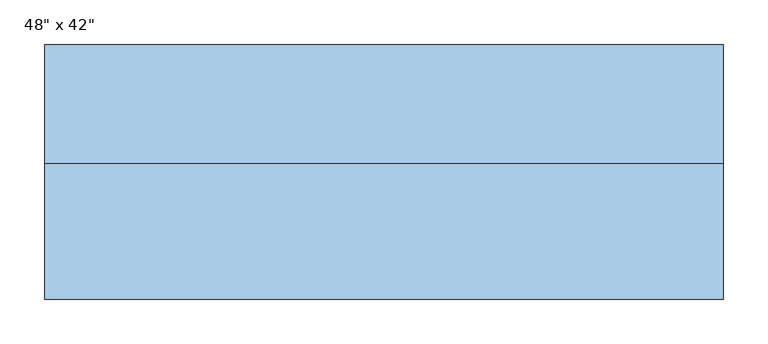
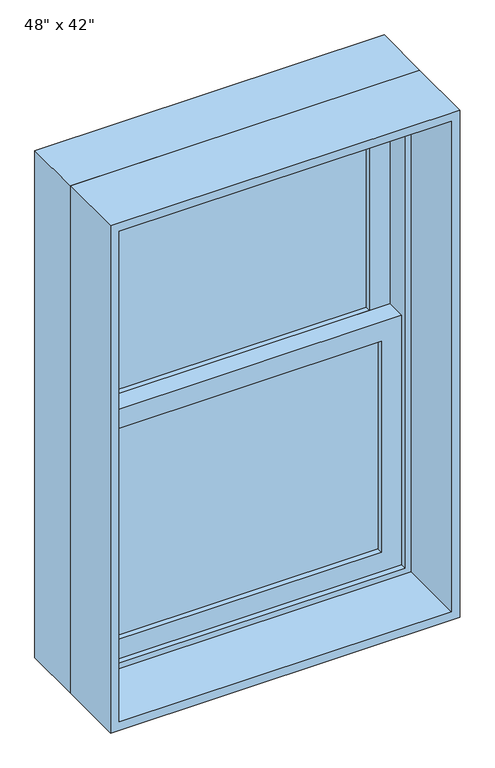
"""IFC4 building model written with IfcOpenShell, lengths in millimetres: window geometry."""

from ifc_helpers import new_model, si_unit, frame, origin, place, context, project, spatial, polyline, outline, extrude, source, transform, mapped, element, save


def window_8e1bc891(model_context):
    return source(origin(), model_context, "Body", "SweptSolid", [
        extrude(outline(polyline([(304.8, 63.5), (304.8, 57.15), (-304.8, 57.15), (-304.8, 63.5), (304.8, 63.5)])), frame((0.0, 0.0, 990.6), z_axis=(0.0, 0.0, 1.0), x_axis=(1.0, 0.0, 0.0)), (0.0, 0.0, 1.0), 485.775),
        extrude(outline(polyline([(-304.8, 50.8), (304.8, 50.8), (304.8, 44.45), (-304.8, 44.45), (-304.8, 50.8)])), frame((0.0, 0.0, 990.6), z_axis=(0.0, 0.0, 1.0), x_axis=(1.0, 0.0, 0.0)), (0.0, 0.0, 1.0), 485.775),
        extrude(outline(polyline([(304.8, 107.95), (304.8, 101.6), (-304.8, 101.6), (-304.8, 107.95), (304.8, 107.95)])), frame((0.0, 0.0, 1520.825), z_axis=(0.0, 0.0, 1.0), x_axis=(1.0, 0.0, 0.0)), (0.0, 0.0, 1.0), 485.775),
        extrude(outline(polyline([(-304.8, 95.25), (304.8, 95.25), (304.8, 88.9), (-304.8, 88.9), (-304.8, 95.25)])), frame((0.0, 0.0, 1520.825), z_axis=(0.0, 0.0, 1.0), x_axis=(1.0, 0.0, 0.0)), (0.0, 0.0, 1.0), 485.775),
        extrude(outline(polyline([(1520.825, -349.25), (946.15, -349.25), (946.15, 349.25), (1520.825, 349.25), (1520.825, -349.25)]), holes=[polyline([(1476.375, 304.8), (990.6, 304.8), (990.6, -304.8), (1476.375, -304.8), (1476.375, 304.8)])]), frame((0.0, 31.75, 0.0), z_axis=(0.0, 1.0, 0.0), x_axis=(0.0, 0.0, 1.0)), (0.0, 0.0, 1.0), 44.45),
        extrude(outline(polyline([(2051.05, -349.25), (1476.375, -349.25), (1476.375, 349.25), (2051.05, 349.25), (2051.05, -349.25)]), holes=[polyline([(2006.6, 304.8), (1520.825, 304.8), (1520.825, -304.8), (2006.6, -304.8), (2006.6, 304.8)])]), frame((0.0, 76.2, 0.0), z_axis=(0.0, 1.0, 0.0), x_axis=(0.0, 0.0, 1.0)), (0.0, 0.0, 1.0), 44.45),
        extrude(outline(polyline([(2082.8, -381.0), (914.4, -381.0), (914.4, 381.0), (2082.8, 381.0), (2082.8, -381.0)]), holes=[polyline([(2051.05, 349.25), (946.15, 349.25), (946.15, -349.25), (2051.05, -349.25), (2051.05, 349.25)])]), frame((0.0, 19.05, 0.0), z_axis=(0.0, 1.0, 0.0), x_axis=(0.0, 0.0, 1.0)), (0.0, 0.0, 1.0), 133.35),
        extrude(outline(polyline([(2082.8, 381.0), (2082.8, -381.0), (914.4, -381.0), (914.4, 381.0), (2082.8, 381.0)]), holes=[polyline([(2063.75, 361.95), (933.45, 361.95), (933.45, -361.95), (2063.75, -361.95), (2063.75, 361.95)])]), frame((0.0, -133.35, 0.0), z_axis=(0.0, 1.0, 0.0), x_axis=(0.0, 0.0, 1.0)), (0.0, 0.0, 1.0), 152.4),
    ])


if __name__ == "__main__":
    model = new_model("IFC4")
    model_context = context("Model", 3, world=origin())
    ifc_project = project(units=[si_unit("LENGTHUNIT", "METRE", prefix="MILLI")], contexts=[model_context])
    site = spatial("IfcSite", under=ifc_project)
    building = spatial("IfcBuilding", under=site)
    placement = place(None, origin())
    window_shape = window_8e1bc891(model_context)
    element("IfcWindow", 1, ObjectType="Planitar-Double-Hung-Single : 48\" x 42\"", at=placement, inside=building, context=model_context, shape_type="MappedRepresentation", body=[
        mapped(window_shape, transform((0.0, 0.0, 0.0), x_axis=(1.0, 0.0, 0.0), y_axis=(0.0, 1.0, 0.0), z_axis=(0.0, 0.0, 1.0))),
    ])
    save(model, "model.ifc")
